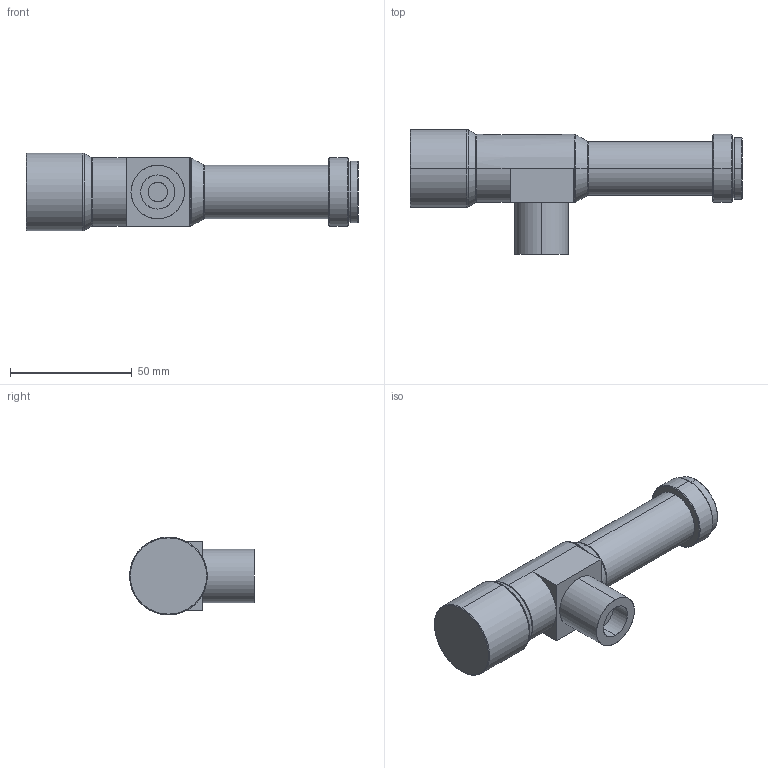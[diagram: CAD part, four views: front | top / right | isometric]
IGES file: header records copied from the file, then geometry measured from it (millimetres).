
Start section: SolidWorks IGES file using analytic representation for surfaces
Global section: file name: C:\Users\16255\Desktop\WWH20-108CTV3.IGS; native system: SolidWorks 2017; preprocessor: SolidWorks 2017; author: 16255; date: 210909.160354; units: millimetre
Bounding box: 136.6 x 51.4 x 32 mm (x, y, z)
Surface area: 15672.3 mm2 (no closed solid volume)
Topology: 0 solids, 0 shells, 54 faces, 728 edges, 728 vertices
Faces by surface type: revolution 31, bspline 23
